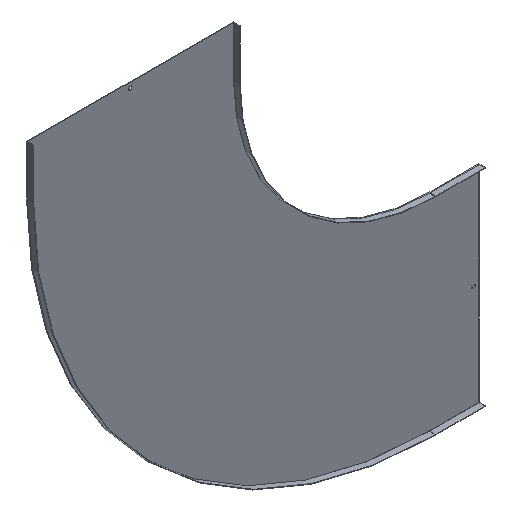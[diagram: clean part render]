
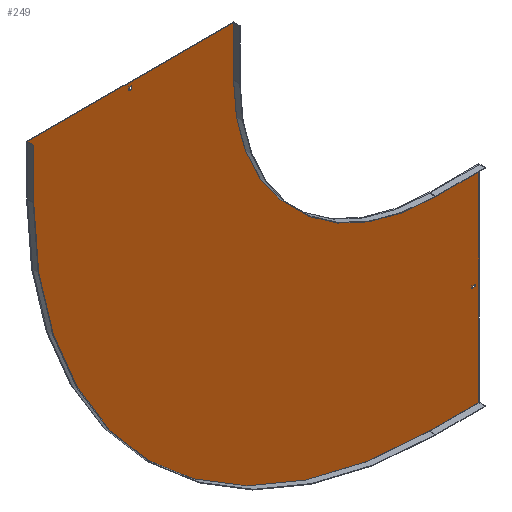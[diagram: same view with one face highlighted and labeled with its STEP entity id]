
A CAD part, isometric view. The second image highlights one B-rep face of the part: STEP entity #249.
In plain terms, the highlighted planar face has unit normal (0, -1, 0).
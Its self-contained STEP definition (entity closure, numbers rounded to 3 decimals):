
#4 = EDGE_CURVE ( 'NONE', #490, #167, #541, .T. ) ;
#9 = LINE ( 'NONE', #518, #64 ) ;
#14 = EDGE_CURVE ( 'NONE', #38, #338, #139, .T. ) ;
#15 = CARTESIAN_POINT ( 'NONE',  ( 150., -1.5, -590. ) ) ;
#18 = LINE ( 'NONE', #224, #523 ) ;
#26 = EDGE_CURVE ( 'NONE', #52, #38, #96, .T. ) ;
#29 = VERTEX_POINT ( 'NONE', #623 ) ;
#30 = EDGE_CURVE ( 'NONE', #290, #144, #32, .T. ) ;
#32 = LINE ( 'NONE', #496, #315 ) ;
#38 = VERTEX_POINT ( 'NONE', #296 ) ;
#39 = LINE ( 'NONE', #643, #172 ) ;
#42 = VERTEX_POINT ( 'NONE', #15 ) ;
#47 = CARTESIAN_POINT ( 'NONE',  ( 0., -1.5, -590. ) ) ;
#52 = VERTEX_POINT ( 'NONE', #813 ) ;
#53 = LINE ( 'NONE', #106, #804 ) ;
#55 = VERTEX_POINT ( 'NONE', #821 ) ;
#64 = VECTOR ( 'NONE', #137, 1000. ) ;
#67 = EDGE_CURVE ( 'NONE', #29, #464, #561, .T. ) ;
#87 = LINE ( 'NONE', #683, #682 ) ;
#94 = EDGE_CURVE ( 'NONE', #42, #490, #162, .T. ) ;
#96 = LINE ( 'NONE', #369, #538 ) ;
#106 = CARTESIAN_POINT ( 'NONE',  ( 0., -1.5, 129. ) ) ;
#114 = DIRECTION ( 'NONE',  ( 0., 0., -1. ) ) ;
#118 = EDGE_CURVE ( 'NONE', #125, #52, #18, .T. ) ;
#125 = VERTEX_POINT ( 'NONE', #289 ) ;
#126 = EDGE_CURVE ( 'NONE', #277, #801, #87, .T. ) ;
#129 = EDGE_CURVE ( 'NONE', #167, #290, #229, .T. ) ;
#131 = VECTOR ( 'NONE', #796, 1000. ) ;
#137 = DIRECTION ( 'NONE',  ( 0., 0., 1. ) ) ;
#139 = LINE ( 'NONE', #737, #816 ) ;
#144 = VERTEX_POINT ( 'NONE', #514 ) ;
#154 = ORIENTED_EDGE ( 'NONE', *, *, #67, .T. ) ;
#162 = LINE ( 'NONE', #438, #800 ) ;
#167 = VERTEX_POINT ( 'NONE', #638 ) ;
#168 = AXIS2_PLACEMENT_3D ( 'NONE', #818, #360, #493 ) ;
#172 = VECTOR ( 'NONE', #114, 1000. ) ;
#177 = EDGE_LOOP ( 'NONE', ( #521, #559, #672, #154 ) ) ;
#185 = FACE_BOUND ( 'NONE', #187, .T. ) ;
#187 = EDGE_LOOP ( 'NONE', ( #527, #209, #688, #191 ) ) ;
#191 = ORIENTED_EDGE ( 'NONE', *, *, #26, .F. ) ;
#208 = CARTESIAN_POINT ( 'NONE',  ( 150., -1.5, -1210. ) ) ;
#209 = ORIENTED_EDGE ( 'NONE', *, *, #772, .F. ) ;
#214 = DIRECTION ( 'NONE',  ( 0., 0., 1. ) ) ;
#223 = DIRECTION ( 'NONE',  ( 0., 0., -1. ) ) ;
#224 = CARTESIAN_POINT ( 'NONE',  ( 0., -1.5, -896.75 ) ) ;
#229 = CIRCLE ( 'NONE', #168, 1210. ) ;
#237 = VERTEX_POINT ( 'NONE', #47 ) ;
#244 = DIRECTION ( 'NONE',  ( -1., 0., 0. ) ) ;
#249 = ADVANCED_FACE ( 'NONE', ( #185, #851, #253 ), #845, .T. ) ;
#253 = FACE_BOUND ( 'NONE', #177, .T. ) ;
#254 = ORIENTED_EDGE ( 'NONE', *, *, #30, .F. ) ;
#258 = CARTESIAN_POINT ( 'NONE',  ( 138., -1.5, -903.25 ) ) ;
#263 = DIRECTION ( 'NONE',  ( 1., 0., 0. ) ) ;
#271 = CARTESIAN_POINT ( 'NONE',  ( 0., -1.5, 138. ) ) ;
#277 = VERTEX_POINT ( 'NONE', #776 ) ;
#285 = DIRECTION ( 'NONE',  ( 0., 0., -1. ) ) ;
#289 = CARTESIAN_POINT ( 'NONE',  ( 138., -1.5, -896.75 ) ) ;
#290 = VERTEX_POINT ( 'NONE', #309 ) ;
#296 = CARTESIAN_POINT ( 'NONE',  ( 129., -1.5, -903.25 ) ) ;
#309 = CARTESIAN_POINT ( 'NONE',  ( -1210., -1.5, 0. ) ) ;
#313 = ORIENTED_EDGE ( 'NONE', *, *, #544, .F. ) ;
#315 = VECTOR ( 'NONE', #489, 1000. ) ;
#338 = VERTEX_POINT ( 'NONE', #258 ) ;
#345 = EDGE_CURVE ( 'NONE', #237, #42, #495, .T. ) ;
#350 = VECTOR ( 'NONE', #263, 1000. ) ;
#360 = DIRECTION ( 'NONE',  ( 0., 1., 0. ) ) ;
#368 = CARTESIAN_POINT ( 'NONE',  ( -903.25, -1.5, 138. ) ) ;
#369 = CARTESIAN_POINT ( 'NONE',  ( 129., -1.5, 0. ) ) ;
#372 = LINE ( 'NONE', #529, #131 ) ;
#398 = ORIENTED_EDGE ( 'NONE', *, *, #345, .F. ) ;
#403 = CARTESIAN_POINT ( 'NONE',  ( -896.75, -1.5, 129. ) ) ;
#419 = DIRECTION ( 'NONE',  ( 1., 0., 0. ) ) ;
#438 = CARTESIAN_POINT ( 'NONE',  ( 150., -1.5, -588.5 ) ) ;
#441 = DIRECTION ( 'NONE',  ( 0., -1., 0. ) ) ;
#443 = VECTOR ( 'NONE', #214, 1000. ) ;
#446 = EDGE_CURVE ( 'NONE', #759, #237, #550, .T. ) ;
#447 = CARTESIAN_POINT ( 'NONE',  ( 0., -1.5, 0. ) ) ;
#459 = VECTOR ( 'NONE', #613, 1000. ) ;
#464 = VERTEX_POINT ( 'NONE', #368 ) ;
#476 = DIRECTION ( 'NONE',  ( -1., 0., 0. ) ) ;
#488 = CARTESIAN_POINT ( 'NONE',  ( 0., -1.5, -590. ) ) ;
#489 = DIRECTION ( 'NONE',  ( 0., 0., 1. ) ) ;
#490 = VERTEX_POINT ( 'NONE', #766 ) ;
#493 = DIRECTION ( 'NONE',  ( 0., 0., -1. ) ) ;
#495 = LINE ( 'NONE', #488, #459 ) ;
#496 = CARTESIAN_POINT ( 'NONE',  ( -1210., -1.5, 0. ) ) ;
#512 = ORIENTED_EDGE ( 'NONE', *, *, #4, .F. ) ;
#514 = CARTESIAN_POINT ( 'NONE',  ( -1210., -1.5, 150. ) ) ;
#518 = CARTESIAN_POINT ( 'NONE',  ( 138., -1.5, 0. ) ) ;
#519 = DIRECTION ( 'NONE',  ( 0., 0., -1. ) ) ;
#521 = ORIENTED_EDGE ( 'NONE', *, *, #797, .T. ) ;
#523 = VECTOR ( 'NONE', #554, 1000. ) ;
#527 = ORIENTED_EDGE ( 'NONE', *, *, #118, .F. ) ;
#529 = CARTESIAN_POINT ( 'NONE',  ( -1211.5, -1.5, 150. ) ) ;
#536 = LINE ( 'NONE', #271, #350 ) ;
#538 = VECTOR ( 'NONE', #285, 1000. ) ;
#541 = LINE ( 'NONE', #208, #767 ) ;
#544 = EDGE_CURVE ( 'NONE', #55, #759, #39, .T. ) ;
#549 = DIRECTION ( 'NONE',  ( 0., 0., -1. ) ) ;
#550 = CIRCLE ( 'NONE', #758, 590. ) ;
#551 = EDGE_LOOP ( 'NONE', ( #572, #254, #653, #512, #738, #398, #712, #313 ) ) ;
#554 = DIRECTION ( 'NONE',  ( -1., 0., 0. ) ) ;
#559 = ORIENTED_EDGE ( 'NONE', *, *, #126, .T. ) ;
#561 = LINE ( 'NONE', #829, #443 ) ;
#562 = AXIS2_PLACEMENT_3D ( 'NONE', #447, #441, #519 ) ;
#568 = EDGE_CURVE ( 'NONE', #801, #29, #53, .T. ) ;
#572 = ORIENTED_EDGE ( 'NONE', *, *, #626, .F. ) ;
#602 = CARTESIAN_POINT ( 'NONE',  ( -590., -1.5, 0. ) ) ;
#613 = DIRECTION ( 'NONE',  ( 1., 0., 0. ) ) ;
#623 = CARTESIAN_POINT ( 'NONE',  ( -903.25, -1.5, 129. ) ) ;
#626 = EDGE_CURVE ( 'NONE', #144, #55, #372, .T. ) ;
#638 = CARTESIAN_POINT ( 'NONE',  ( 0., -1.5, -1210. ) ) ;
#643 = CARTESIAN_POINT ( 'NONE',  ( -590., -1.5, 150. ) ) ;
#653 = ORIENTED_EDGE ( 'NONE', *, *, #129, .F. ) ;
#672 = ORIENTED_EDGE ( 'NONE', *, *, #568, .T. ) ;
#682 = VECTOR ( 'NONE', #549, 1000. ) ;
#683 = CARTESIAN_POINT ( 'NONE',  ( -896.75, -1.5, 0. ) ) ;
#688 = ORIENTED_EDGE ( 'NONE', *, *, #14, .F. ) ;
#691 = DIRECTION ( 'NONE',  ( 0., 0., -1. ) ) ;
#712 = ORIENTED_EDGE ( 'NONE', *, *, #446, .F. ) ;
#737 = CARTESIAN_POINT ( 'NONE',  ( 0., -1.5, -903.25 ) ) ;
#738 = ORIENTED_EDGE ( 'NONE', *, *, #94, .F. ) ;
#750 = DIRECTION ( 'NONE',  ( 0., -1., 0. ) ) ;
#753 = CARTESIAN_POINT ( 'NONE',  ( 0., -1.5, 0. ) ) ;
#758 = AXIS2_PLACEMENT_3D ( 'NONE', #753, #750, #223 ) ;
#759 = VERTEX_POINT ( 'NONE', #602 ) ;
#766 = CARTESIAN_POINT ( 'NONE',  ( 150., -1.5, -1210. ) ) ;
#767 = VECTOR ( 'NONE', #476, 1000. ) ;
#772 = EDGE_CURVE ( 'NONE', #338, #125, #9, .T. ) ;
#776 = CARTESIAN_POINT ( 'NONE',  ( -896.75, -1.5, 138. ) ) ;
#796 = DIRECTION ( 'NONE',  ( 1., 0., 0. ) ) ;
#797 = EDGE_CURVE ( 'NONE', #464, #277, #536, .T. ) ;
#800 = VECTOR ( 'NONE', #691, 1000. ) ;
#801 = VERTEX_POINT ( 'NONE', #403 ) ;
#804 = VECTOR ( 'NONE', #244, 1000. ) ;
#813 = CARTESIAN_POINT ( 'NONE',  ( 129., -1.5, -896.75 ) ) ;
#816 = VECTOR ( 'NONE', #419, 1000. ) ;
#818 = CARTESIAN_POINT ( 'NONE',  ( 0., -1.5, 0. ) ) ;
#821 = CARTESIAN_POINT ( 'NONE',  ( -590., -1.5, 150. ) ) ;
#829 = CARTESIAN_POINT ( 'NONE',  ( -903.25, -1.5, 0. ) ) ;
#845 = PLANE ( 'NONE',  #562 ) ;
#851 = FACE_OUTER_BOUND ( 'NONE', #551, .T. ) ;
